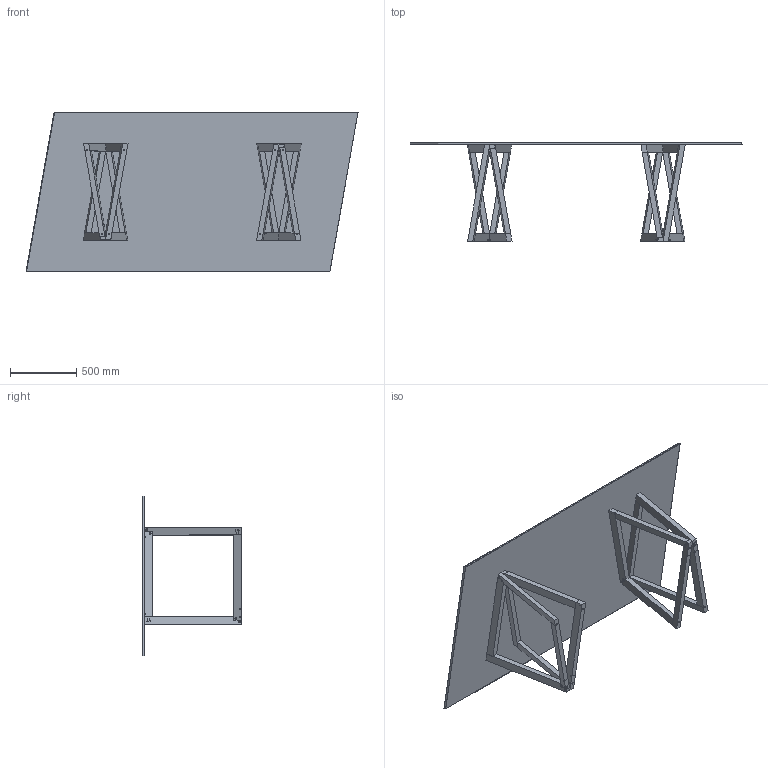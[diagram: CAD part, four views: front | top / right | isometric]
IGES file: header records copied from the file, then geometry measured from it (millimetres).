
Start section: SolidWorks IGES file using analytic representation for surfaces
Global section: file name: C:\Users\Matteo\Desktop\_Horm\Dror\_file tecnici per listino\QuaDror 02\250x120 quadror obliquo.IGS; native system: SolidWorks 2010; preprocessor: SolidWorks 2010; author: Matteo; date: 151117.120025; units: millimetre
Bounding box: 2499.23 x 741.03 x 1200 mm (x, y, z)
Surface area: 7828807 mm2 (no closed solid volume)
Topology: 0 solids, 0 shells, 374 faces, 7170 edges, 7170 vertices
Faces by surface type: bspline 270, revolution 104
